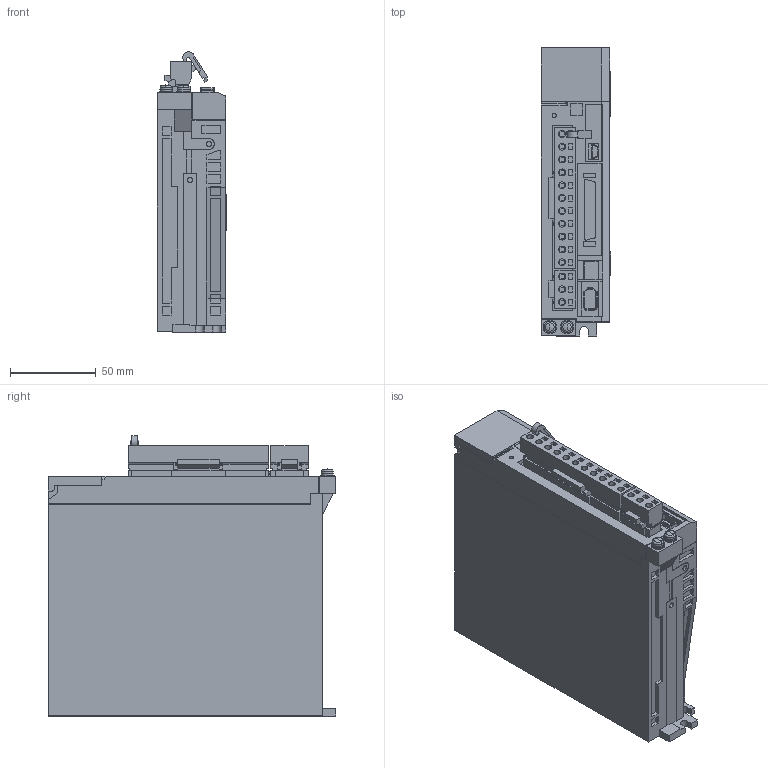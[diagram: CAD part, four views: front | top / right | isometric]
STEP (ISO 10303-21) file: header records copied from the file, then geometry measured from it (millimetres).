
FILE_DESCRIPTION((''),'2;1');
FILE_NAME('SGDXS-1R6A00A_ASM','2022-02-24T',('qiaochen_shen'),('Yaskawa Electric (Shenyang) Co.,Ltd'),'PRO/ENGINEER BY PARAMETRIC TECHNOLOGY CORPORATION, 2017170','PRO/ENGINEER BY PARAMETRIC TECHNOLOGY CORPORATION, 2017170','');
FILE_SCHEMA(('AUTOMOTIVE_DESIGN { 1 0 10303 214 1 1 1 1 }'));
Length unit declared in the file: millimetre
Products named in the file (9): SGDXS_1R6A00A_BASE1; SGDXS_1R6A00A_COVER_1; SGDXS_1R6A00A_CONNECTOR_3; SGDXS_1R6A00A_COVER2; SGDXS_1R6A00A_COVER3_AF0; SGDXS_1R6A00A_CONNECTOR_1; SGDXS_1R6A00A_CONNECTOR_2; SGDXS_1R6A00A_PIN_1; SGDXS-1R6A00A_ASM
Assembly tree (8 placements, depth 2):
  SGDXS-1R6A00A_ASM
    SGDXS_1R6A00A_BASE1
    SGDXS_1R6A00A_COVER_1
    SGDXS_1R6A00A_CONNECTOR_3
    SGDXS_1R6A00A_COVER2
    SGDXS_1R6A00A_COVER3_AF0
    SGDXS_1R6A00A_CONNECTOR_1
    SGDXS_1R6A00A_CONNECTOR_2
    SGDXS_1R6A00A_PIN_1
Bounding box: 40.5 x 168 x 163.73 mm (x, y, z)
Volume: 829700.7 mm3; surface area: 124317.7 mm2
Topology: 8 solids, 8 shells, 1718 faces, 4519 edges, 2981 vertices
Faces by surface type: plane 1547, cylinder 151, torus 12, cone 4, sphere 4
Entity records: 67794 total; most frequent: CARTESIAN_POINT 9284, ORIENTED_EDGE 9030, DIRECTION 8320, EDGE_CURVE 4515, VECTOR 4170, LINE 4170, VERTEX_POINT 2981, PRESENTATION_STYLE_ASSIGNMENT 2127
